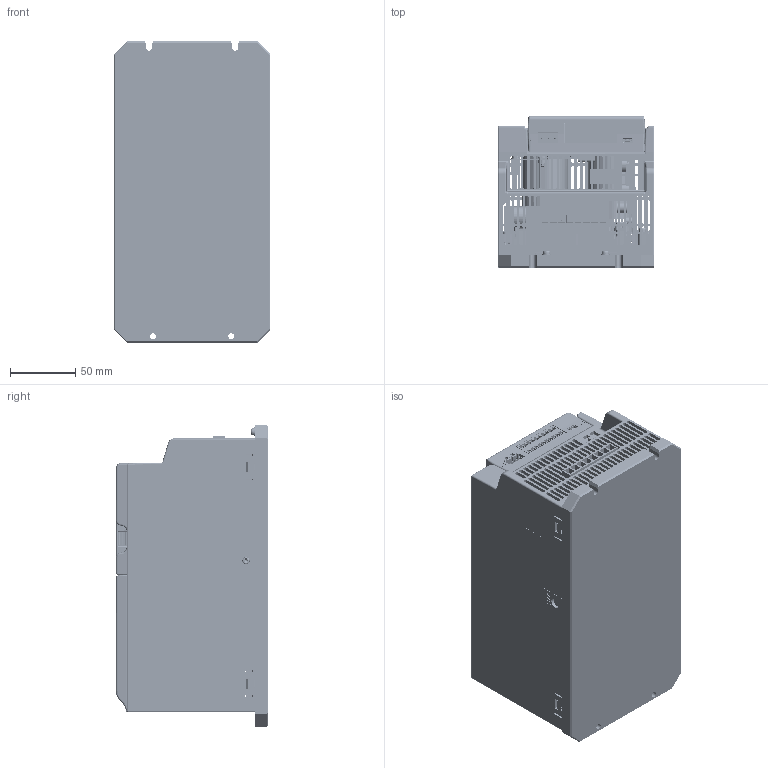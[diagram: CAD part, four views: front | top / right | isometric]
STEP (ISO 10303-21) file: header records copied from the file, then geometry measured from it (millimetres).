
FILE_DESCRIPTION((''),'2;1');
FILE_NAME('00-D_3PH','2019-01-24T09:02:12',('LIW2XI'),(''),'CREO PARAMETRIC BY PTC INC, 2017260','CREO PARAMETRIC BY PTC INC, 2017260','');
FILE_SCHEMA(('AUTOMOTIVE_DESIGN { 1 0 10303 214 1 1 1 1 }'));
Products named in the file (743): HEATSINK; EMC-01; LDZHJ_SZCYZT_M3X8; P_PCB-HOLDER2014_04_10; _GND_DIANPIAN; LDZHJ_SZCYZT_M3X12; BOARD_20151119; SPHERE-25516_20151119; 623455408_20151119; CYLINDER-25570_20151119; 623457208_20151119; CYLINDER-25716_20151119; 623455528_20151119; SPHERE-25862_20151119; 623455168_20151119; CYLINDER-25916_20151119; 623454928_20151119; CYLINDER-26062_20151119; 623461768_20151119; CYLINDER-26208_20151119; 623462008_20151119; RS101_20151119; CYLINDER-26393_20151119; 623448568_20151119; CYLINDER-26539_20151119; 623445568_20151119; CYLINDER-26690_20151119; 623445808_20151119; RV100_20151119; CYLINDER-26880_20151119; 623444128_20151119; CYLINDER-27026_20151119; 623447728_20151119; CYLINDER-27177_20151119; 623447608_20151119; RV101_20151119; RV102_20151119; EXTRUDED-27475_20151119; 1075658784_20151119; EXTRUDED-27847_20151119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
Assembly tree (1494 placements, depth 8):
  00-D_3PH
    00-D-S
      HEATSINK
      EMC-01
      LDZHJ_SZCYZT_M3X8  x13
      P_PCB-HOLDER2014_04_10
      _GND_DIANPIAN  x2
      LDZHJ_SZCYZT_M3X12  x3
      PCBA_YMB_20151119
        PCB_20151119
          BOARD_20151119
          RS101_20151119
            623455408_20151119
              SPHERE-25516_20151119
            623457208_20151119
              CYLINDER-25570_20151119
            623455528_20151119
              CYLINDER-25716_20151119
            623455168_20151119
              SPHERE-25862_20151119
            623454928_20151119
              CYLINDER-25916_20151119
            623461768_20151119
              CYLINDER-26062_20151119
            623462008_20151119
              CYLINDER-26208_20151119
          RV100_20151119
            623448568_20151119
              CYLINDER-26393_20151119
            623445568_20151119  x2
              CYLINDER-26539_20151119
            623445808_20151119  x2
              CYLINDER-26690_20151119
          RV101_20151119
            623444128_20151119
              CYLINDER-26880_20151119
            623447728_20151119  x2
              CYLINDER-27026_20151119
            623447608_20151119  x2
              CYLINDER-27177_20151119
          RV102_20151119
            623444128_20151119
              CYLINDER-26880_20151119
            623447728_20151119  x2
              CYLINDER-27026_20151119
            623447608_20151119  x2
              CYLINDER-27177_20151119
          U41_20151119
            1075658784_20151119  x5
              EXTRUDED-27475_20151119
            1075668768_20151119  x5
              EXTRUDED-27847_20151119
            1075659296_20151119  x5
              EXTRUDED-28219_20151119
            1075659424_20151119
              EXTRUDED-28591_20151119
          U21_20151119
            1075668384_20151119  x5
              EXTRUDED-29106_20151119
            1075659040_20151119  x5
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Bounding box: 120.3 x 116.74 x 231 mm (x, y, z)
Volume: 918835.8 mm3; surface area: 577044.2 mm2
Topology: 968 solids, 968 shells, 12955 faces, 31318 edges, 20455 vertices
Faces by surface type: plane 9656, cylinder 2241, bspline 338, cone 249, torus 248, extrusion 163, sphere 60
Entity records: 344955 total; most frequent: CARTESIAN_POINT 73297, DIRECTION 42810, ORIENTED_EDGE 38652, EDGE_CURVE 19326, VECTOR 14602, LINE 14439, AXIS2_PLACEMENT_3D 14104, PRESENTATION_STYLE_ASSIGNMENT 13221
